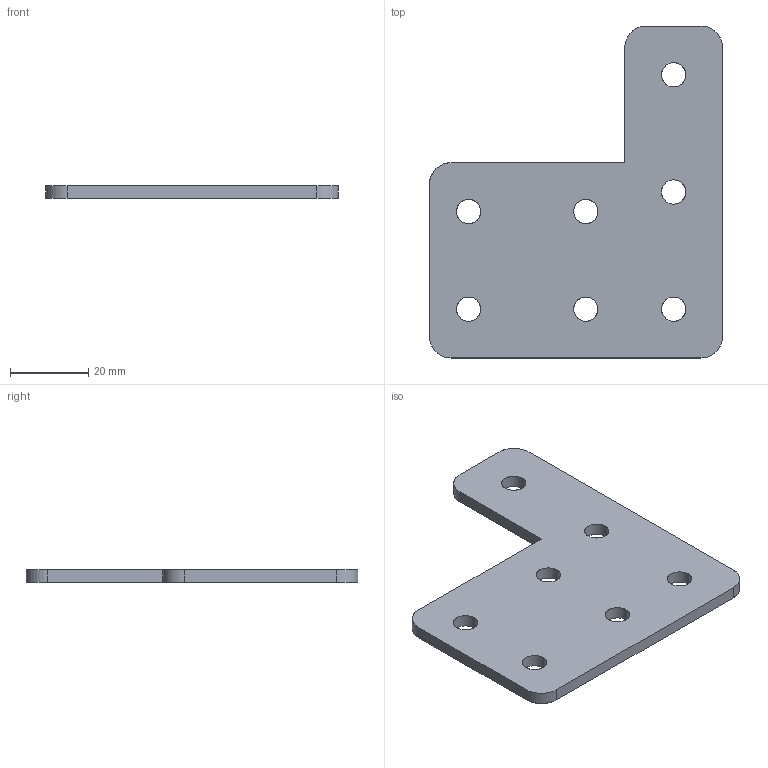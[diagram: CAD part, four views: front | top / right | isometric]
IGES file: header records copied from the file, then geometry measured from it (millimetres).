
Start section: SolidWorks IGES file using analytic representation for surfaces
Global section: file name: C:\Documents and Settings\CAD53\デスクトップ\IGES\N01913-401-0.IGS; native system: SolidWorks 2005 by SolidWorks Corporation; preprocessor: SolidWorks 2005 by SolidWorks Corporation; author: CAD53; date: 070530.092029; units: millimetre
Bounding box: 75 x 85 x 3.2 mm (x, y, z)
Surface area: 10184.9 mm2 (no closed solid volume)
Topology: 0 solids, 0 shells, 27 faces, 640 edges, 640 vertices
Faces by surface type: revolution 19, bspline 8
